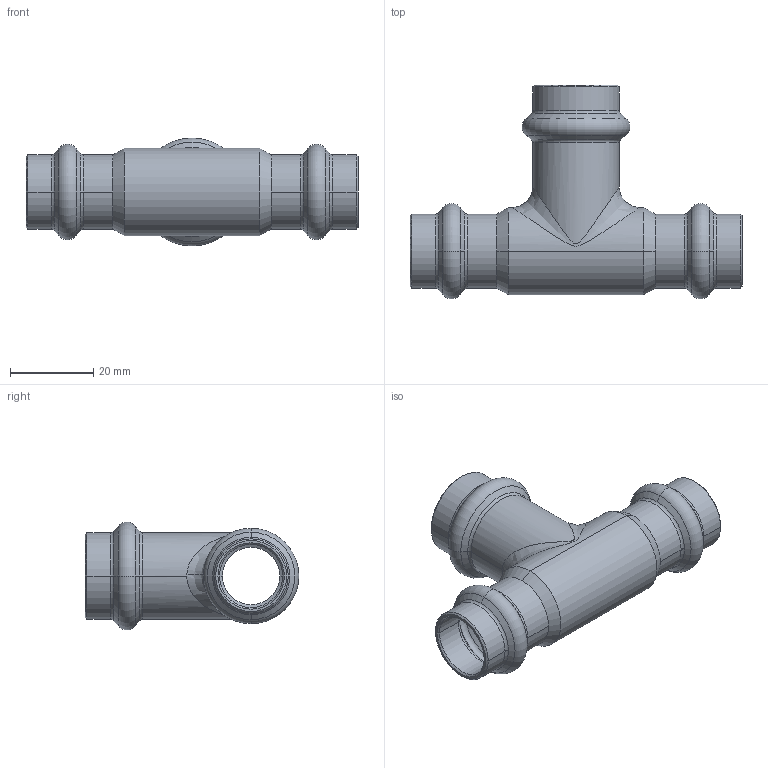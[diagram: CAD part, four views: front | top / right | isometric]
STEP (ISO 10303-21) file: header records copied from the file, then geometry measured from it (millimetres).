
FILE_DESCRIPTION (( 'STEP AP203' ), '1' );
FILE_NAME ('SP5130 Ø15-18-15.STEP', '2017-04-24T12:47:49', ( '' ), ( '' ), 'SwSTEP 2.0', 'SolidWorks 2016', '' );
FILE_SCHEMA (( 'CONFIG_CONTROL_DESIGN' ));
Length unit declared in the file: millimetre
Products named in the file (1): SP5130 Ø15-18-15
Bounding box: 80 x 51.5 x 26 mm (x, y, z)
Volume: 11726.6 mm3; surface area: 13515.6 mm2
Topology: 1 solids, 1 shells, 122 faces, 274 edges, 156 vertices
Faces by surface type: cone 48, torus 36, cylinder 30, bspline 4, plane 4
Entity records: 4841 total; most frequent: CARTESIAN_POINT 1947, DIRECTION 684, ORIENTED_EDGE 548, AXIS2_PLACEMENT_3D 303, EDGE_CURVE 274, CIRCLE 184, VERTEX_POINT 156, EDGE_LOOP 128
